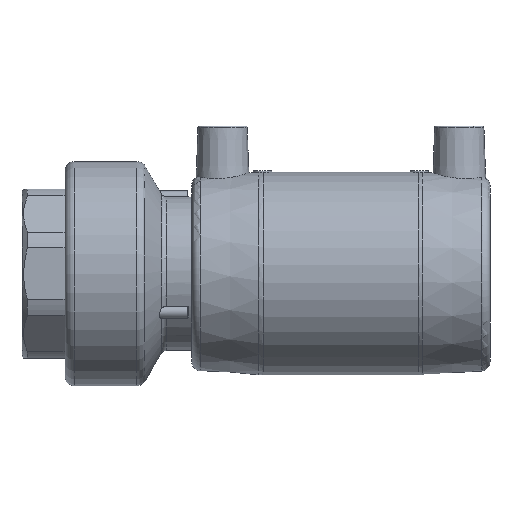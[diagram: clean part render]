
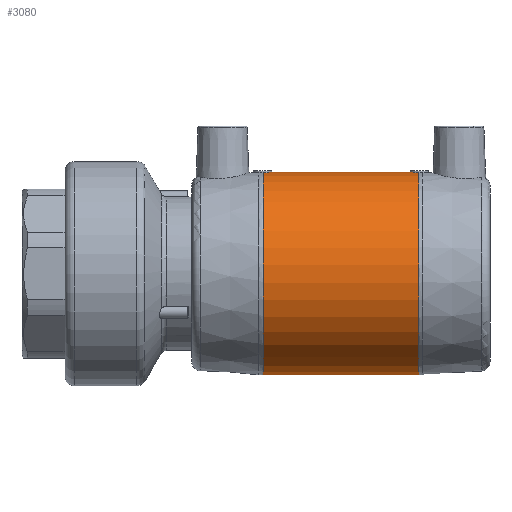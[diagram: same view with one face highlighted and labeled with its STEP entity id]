
A CAD part, front view. The second image highlights one B-rep face of the part: STEP entity #3080.
In plain terms, the highlighted cylindrical face has radius 33 mm (diameter 66 mm), a full revolution.
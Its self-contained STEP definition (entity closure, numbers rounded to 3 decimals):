
#549=CYLINDRICAL_SURFACE('',#3832,33.);
#622=CIRCLE('',#3833,33.);
#623=CIRCLE('',#3834,33.);
#834=ORIENTED_EDGE('',*,*,#1716,.F.);
#835=ORIENTED_EDGE('',*,*,#1717,.T.);
#836=ORIENTED_EDGE('',*,*,#1718,.F.);
#837=ORIENTED_EDGE('',*,*,#1719,.T.);
#1716=EDGE_CURVE('',#2156,#2157,#2460,.T.);
#1717=EDGE_CURVE('',#2156,#2157,#622,.F.);
#1718=EDGE_CURVE('',#2158,#2159,#2461,.T.);
#1719=EDGE_CURVE('',#2158,#2159,#623,.T.);
#2156=VERTEX_POINT('',#5303);
#2157=VERTEX_POINT('',#5304);
#2158=VERTEX_POINT('',#5313);
#2159=VERTEX_POINT('',#5314);
#2460=B_SPLINE_CURVE_WITH_KNOTS('',3,(#5296,#5297,#5298,#5299,#5300,#5301,
#5302),.UNSPECIFIED.,.F.,.F.,(4,1,1,1,4),(0.,0.002,0.005,
0.007,0.009),.UNSPECIFIED.);
#2461=B_SPLINE_CURVE_WITH_KNOTS('',3,(#5306,#5307,#5308,#5309,#5310,#5311,
#5312),.UNSPECIFIED.,.F.,.F.,(4,1,1,1,4),(0.,0.002,0.005,
0.007,0.009),.UNSPECIFIED.);
#2512=EDGE_LOOP('',(#834,#835));
#2513=EDGE_LOOP('',(#836,#837));
#2794=FACE_BOUND('',#2512,.T.);
#2795=FACE_BOUND('',#2513,.T.);
#3080=ADVANCED_FACE('',(#2794,#2795),#549,.T.);
#3832=AXIS2_PLACEMENT_3D('',#5295,#4245,#4246);
#3833=AXIS2_PLACEMENT_3D('',#5305,#4247,#4248);
#3834=AXIS2_PLACEMENT_3D('',#5315,#4249,#4250);
#4245=DIRECTION('',(-1.,0.,0.));
#4246=DIRECTION('',(0.,0.,1.));
#4247=DIRECTION('',(1.,0.,0.));
#4248=DIRECTION('',(0.,0.,-1.));
#4249=DIRECTION('',(1.,0.,0.));
#4250=DIRECTION('',(0.,0.,-1.));
#5295=CARTESIAN_POINT('',(-60.,0.,0.));
#5296=CARTESIAN_POINT('',(25.334,2.995,32.864));
#5297=CARTESIAN_POINT('',(24.57,2.953,32.868));
#5298=CARTESIAN_POINT('',(23.106,2.268,32.937));
#5299=CARTESIAN_POINT('',(22.197,0.,33.031));
#5300=CARTESIAN_POINT('',(23.106,-2.268,32.937));
#5301=CARTESIAN_POINT('',(24.57,-2.953,32.868));
#5302=CARTESIAN_POINT('',(25.334,-2.995,32.864));
#5303=CARTESIAN_POINT('',(25.334,2.995,32.864));
#5304=CARTESIAN_POINT('',(25.334,-2.995,32.864));
#5305=CARTESIAN_POINT('',(25.334,0.,0.));
#5306=CARTESIAN_POINT('',(-25.334,-2.995,32.864));
#5307=CARTESIAN_POINT('',(-24.57,-2.953,32.868));
#5308=CARTESIAN_POINT('',(-23.106,-2.268,32.937));
#5309=CARTESIAN_POINT('',(-22.197,0.,33.031));
#5310=CARTESIAN_POINT('',(-23.106,2.268,32.937));
#5311=CARTESIAN_POINT('',(-24.57,2.953,32.868));
#5312=CARTESIAN_POINT('',(-25.334,2.995,32.864));
#5313=CARTESIAN_POINT('',(-25.334,-2.995,32.864));
#5314=CARTESIAN_POINT('',(-25.334,2.995,32.864));
#5315=CARTESIAN_POINT('',(-25.334,0.,0.));
